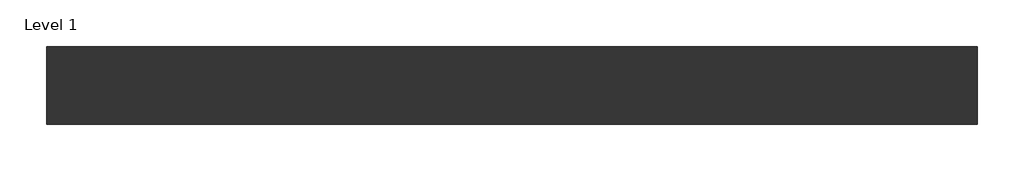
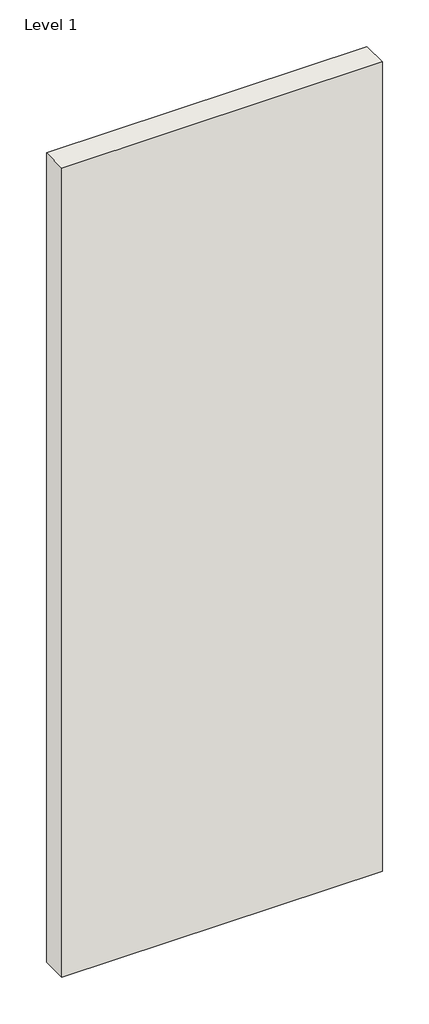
# One storey: 1 wall.
"""IFC4 building model written with IfcOpenShell, lengths in millimetres."""

from ifc_helpers import new_model, si_unit, origin, origin_with_axes, place, context, project, spatial, polyline, outline, extrude, element, save

model = new_model("IFC4")

# Units and contexts
model_context = context("Model", 3, world=origin())
ifc_project = project(units=[si_unit("LENGTHUNIT", "METRE", prefix="MILLI")], contexts=[model_context])

# Site, building, storey
site = spatial("IfcSite", under=ifc_project)
building = spatial("IfcBuilding", under=site)
storey = spatial("IfcBuildingStorey", under=building, Name="Level 1", Elevation=0.0)

# Wall
placement = place(None, origin())
element("IfcWall", 1, ObjectType="Tabique Simple – Placo®  100/400 PPH 15 + 70 (LM) + PPH 15 con LM Isover - 47 dBA", at=placement, inside=storey, context=model_context, shape_type="SweptSolid", body=[
    extrude(outline(polyline([(-27386.4711674, -90255.7381776), (-28586.4711674, -90255.7381776), (-28586.4711674, -90155.7381776), (-27386.4711674, -90155.7381776), (-27386.4711674, -90255.7381776)])), origin_with_axes(), (0.0, 0.0, 1.0), 3200.0),
])

save(model, "model.ifc")
